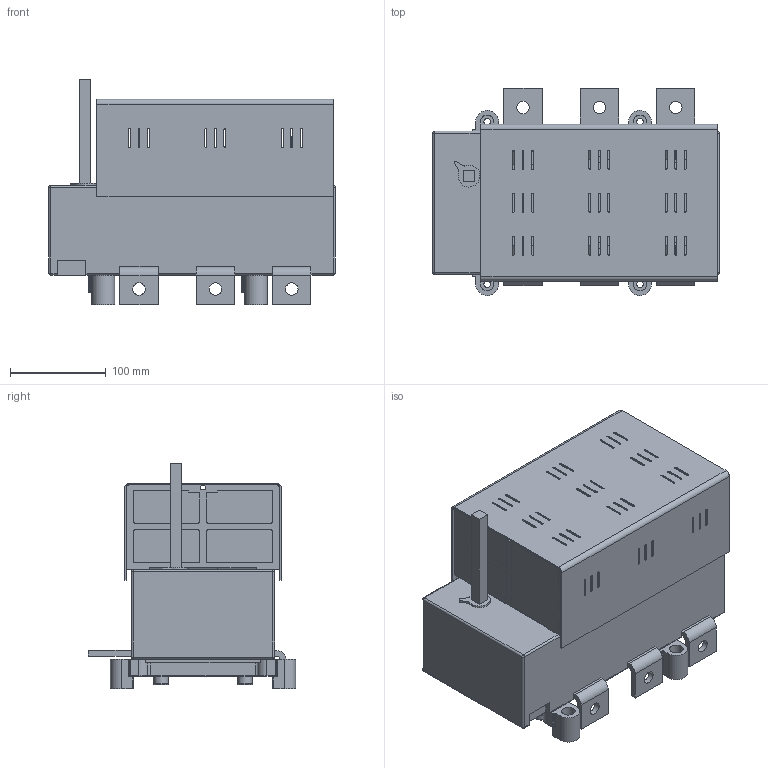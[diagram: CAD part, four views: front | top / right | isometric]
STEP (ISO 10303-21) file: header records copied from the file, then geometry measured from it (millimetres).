
FILE_DESCRIPTION(/* description */ (''),/* implementation_level */ '2;1');
FILE_NAME(/* name */ 'RAB 3 P3 A.stp',/* time_stamp */ '2021-08-19T14:50:12+02:00',/* author */ (''),/* organization */ (''),/* preprocessor_version */ 'ST-DEVELOPER v18.1',/* originating_system */ 'SIEMENS PLM Software NX 1965',/* authorisation */ '');
FILE_SCHEMA (('AUTOMOTIVE_DESIGN { 1 0 10303 214 3 1 1 1 }'));
Length unit declared in the file: millimetre
Products named in the file (1): RAB 3 P3 A_stp
Bounding box: 300 x 217 x 236 mm (x, y, z)
Volume: 4463406 mm3; surface area: 633982.1 mm2
Topology: 1 solids, 13 shells, 1558 faces, 4229 edges, 2709 vertices
Faces by surface type: plane 904, cylinder 544, bspline 50, torus 44, cone 8, sphere 8
Full cylindrical faces by diameter (mm): 3 x4, 4.8 x4, 5.6 x4, 6.5 x26, 7 x4, 10.5 x26, 13 x6, 13.5 x4, 14 x4, 15 x4
Entity records: 50887 total; most frequent: CARTESIAN_POINT 11399, DIRECTION 8170, ORIENTED_EDGE 8160, EDGE_CURVE 4080, LINE 2768, VECTOR 2768, AXIS2_PLACEMENT_3D 2701, VERTEX_POINT 2682
